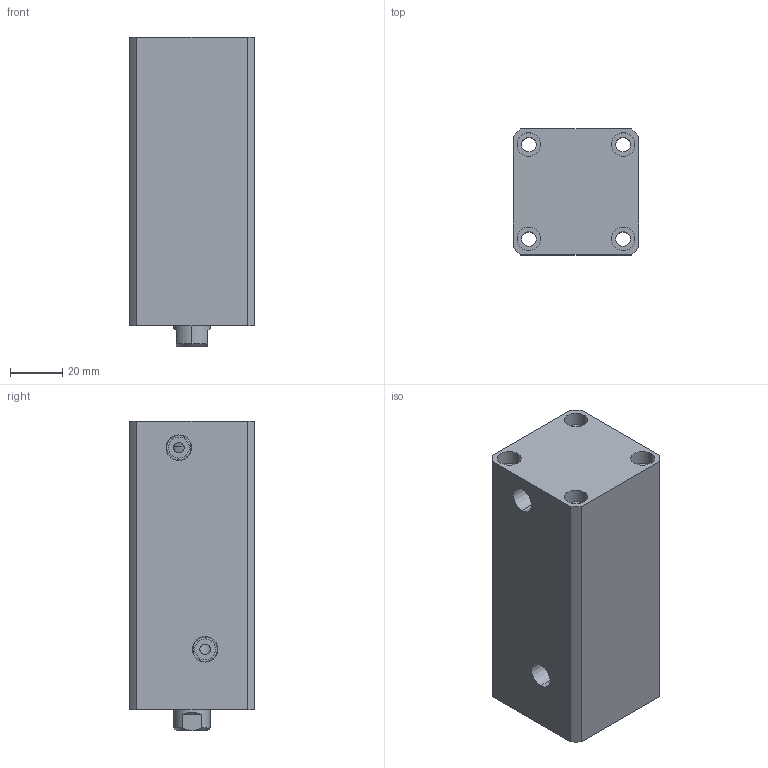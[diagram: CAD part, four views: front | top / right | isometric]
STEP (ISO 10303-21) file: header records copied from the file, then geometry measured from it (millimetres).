
FILE_DESCRIPTION (( 'STEP AP214' ), '1' );
FILE_NAME ('chtb-sd25x65n_asm.STEP', '2018-05-22T13:03:34', ( 'Windows' ), ( 'Microsoft' ), 'SwSTEP 2.0', 'SolidWorks 2015', '' );
FILE_SCHEMA (( 'AUTOMOTIVE_DESIGN' ));
Length unit declared in the file: millimetre
Products named in the file (4): CHTB-SD25X65NHSG; CHTB-SD25X65NBT; CHTB-25QG; chtb-sd25x65n_asm
Assembly tree (3 placements, depth 2):
  chtb-sd25x65n_asm
    CHTB-25QG
    CHTB-SD25X65NBT
    CHTB-SD25X65NHSG
Bounding box: 48 x 48 x 118 mm (x, y, z)
Volume: 214744 mm3; surface area: 54340.2 mm2
Topology: 3 solids, 3 shells, 144 faces, 377 edges, 257 vertices
Faces by surface type: cylinder 85, plane 36, cone 13, bspline 10
Entity records: 7940 total; most frequent: CARTESIAN_POINT 4299, ORIENTED_EDGE 742, DIRECTION 671, EDGE_CURVE 371, AXIS2_PLACEMENT_3D 278, VERTEX_POINT 257, EDGE_LOOP 182, FACE_OUTER_BOUND 144
